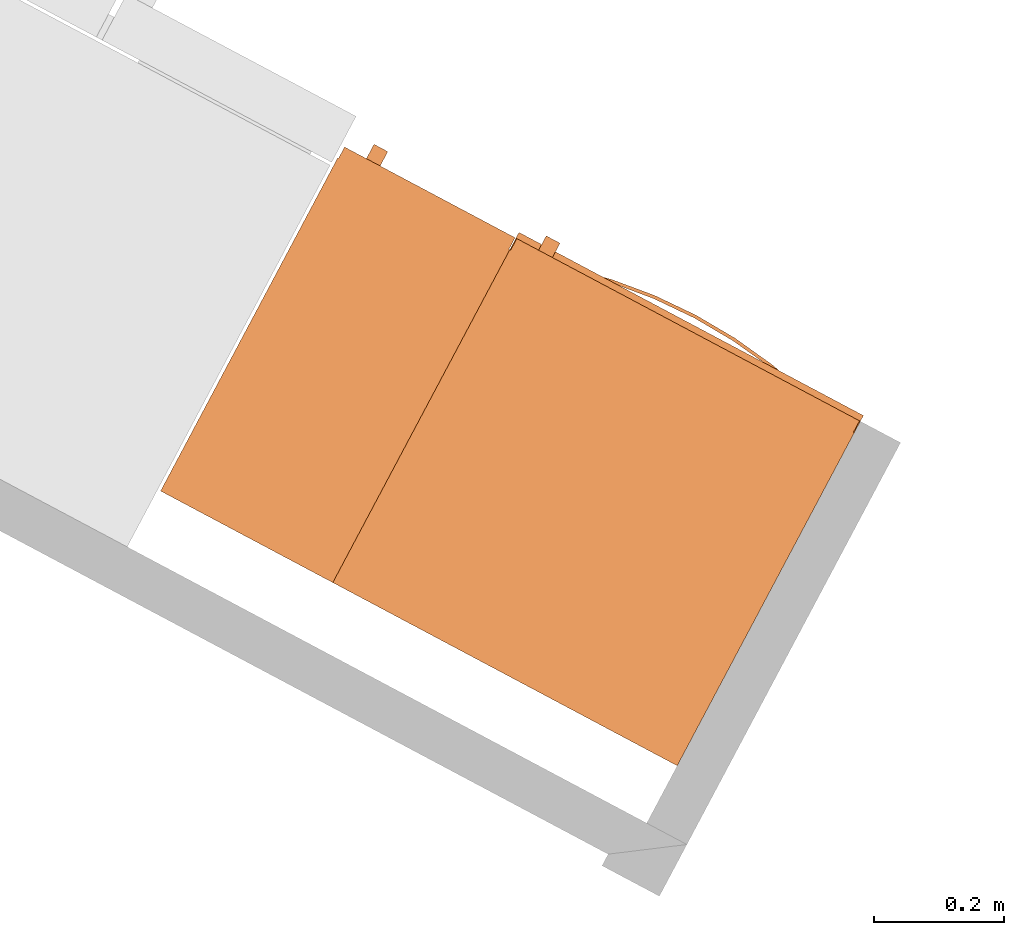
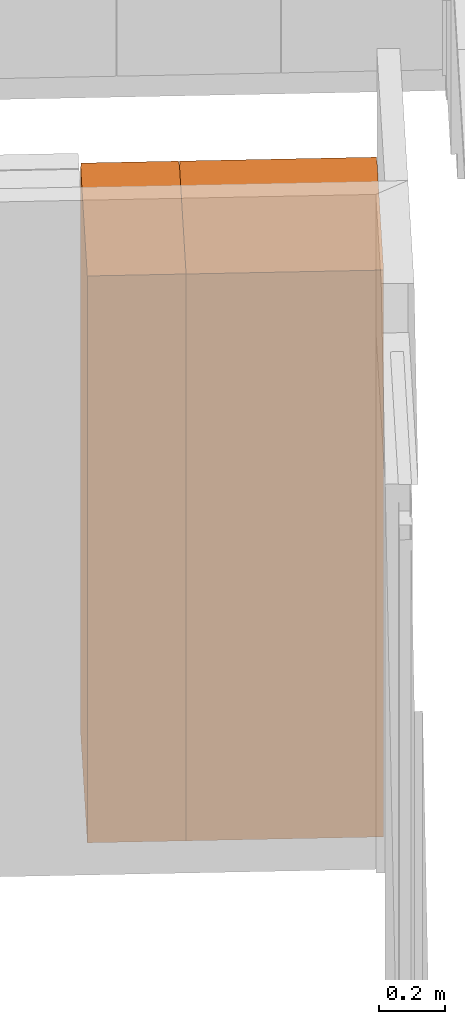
# One storey, part 20 of 27: 2 proxies.
"""IFC2X3 building model written with IfcOpenShell, lengths in metres."""

from ifc_helpers import new_model, entity, si_unit, converted_unit, derived_unit, money_unit, direction, frame, origin_with_axes, place, context, subcontext, project, spatial, faceted_brep, type_object, element, save


model = new_model("IFC2X3")

# Units and contexts
model_context = context("Model", 3, precision=1e-05, world=origin_with_axes(), true_north=direction((0.0, 1.0)))
body_context = subcontext(model_context, "Body", "Model", "MODEL_VIEW")
ifc_project = project(units=[si_unit("LENGTHUNIT", "METRE"), si_unit("AREAUNIT", "SQUARE_METRE"), si_unit("VOLUMEUNIT", "CUBIC_METRE"), converted_unit("PLANEANGLEUNIT", "DEGREE", entity("IfcPlaneAngleMeasure", 0.0174532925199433), si_unit("PLANEANGLEUNIT", "RADIAN"), dimensions=[0, 0, 0, 0, 0, 0, 0]), money_unit("CHF"), converted_unit("TIMEUNIT", "Year", entity("IfcTimeMeasure", 31557600.0), si_unit("TIMEUNIT", "SECOND"), dimensions=[0, 0, 1, 0, 0, 0, 0]), si_unit("MASSUNIT", "GRAM", prefix="KILO"), si_unit("THERMODYNAMICTEMPERATUREUNIT", "DEGREE_CELSIUS"), si_unit("LUMINOUSINTENSITYUNIT", "LUMEN"), si_unit("ENERGYUNIT", "JOULE", prefix="MEGA"), derived_unit("THERMALCONDUCTANCEUNIT", [(si_unit("POWERUNIT", "WATT"), 1), (si_unit("LENGTHUNIT", "METRE"), -1), (si_unit("THERMODYNAMICTEMPERATUREUNIT", "KELVIN"), -1)]), derived_unit("SPECIFICHEATCAPACITYUNIT", [(si_unit("ENERGYUNIT", "JOULE"), 1), (si_unit("MASSUNIT", "GRAM", prefix="KILO"), -1), (si_unit("THERMODYNAMICTEMPERATUREUNIT", "KELVIN"), -1)]), derived_unit("MASSDENSITYUNIT", [(si_unit("MASSUNIT", "GRAM", prefix="KILO"), 1), (si_unit("VOLUMEUNIT", "CUBIC_METRE"), -1)])], contexts=[model_context])

# Site, building, storey
site_placement = place(None, frame((0.0, 0.0, 0.0), z_axis=(0.0, 0.0, 1.0), x_axis=(-0.4694715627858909, -0.8829475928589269, 0.0)))
site = spatial("IfcSite", under=ifc_project, at=site_placement, Name="Site", CompositionType="ELEMENT")
building_placement = place(site_placement, origin_with_axes())
building = spatial("IfcBuilding", under=site, at=building_placement, Name="Bâtiment", CompositionType="ELEMENT")
storey_placement = place(building_placement, origin_with_axes())
storey = spatial("IfcBuildingStorey", under=building, at=storey_placement, Name="RDC", CompositionType="ELEMENT", Elevation=0.0)

# Proxies
building_element_proxy_type_1 = type_object("IfcBuildingElementProxyType", Name="Elément haut avec four 24", PredefinedType="NOTDEFINED")
proxy_1_placement = place(storey_placement, frame((137.8995710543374, -829.9595991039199, 0.0), z_axis=(0.0, 0.0, 1.0), x_axis=(0.0, -1.0, 0.0)))
element("IfcBuildingElementProxy", 1, at=proxy_1_placement, inside=storey, type_object=building_element_proxy_type_1, Name="Obj.-482", context=body_context, shape_type="Brep", body=[
    faceted_brep([(0.02, 0.02, 1.39), (0.58, 0.02, 1.39), (0.58, 0.02, 1.41), (0.02, 0.02, 1.41), (0.02, 0.58, 1.39), (0.58, 0.58, 1.39), (0.58, 0.58, 1.41), (0.02, 0.58, 1.41)], [[[0, 1, 2, 3]], [[0, 4, 5, 1]], [[1, 5, 6, 2]], [[3, 2, 6, 7]], [[4, 0, 3, 7]], [[5, 4, 7, 6]]]),
    faceted_brep([(0.02, 0.02, 0.89), (0.58, 0.02, 0.89), (0.58, 0.02, 0.91), (0.02, 0.02, 0.91), (0.02, 0.58, 0.89), (0.58, 0.58, 0.89), (0.58, 0.58, 0.91), (0.02, 0.58, 0.91)], [[[0, 1, 2, 3]], [[0, 4, 5, 1]], [[1, 5, 6, 2]], [[3, 2, 6, 7]], [[4, 0, 3, 7]], [[5, 4, 7, 6]]]),
    faceted_brep([(0.0, 0.02, 0.0), (0.6, 0.02, 0.0), (0.6, 0.02, 0.09), (0.0, 0.02, 0.09), (0.0, 0.6, 0.0), (0.6, 0.6, 0.0), (0.6, 0.6, 0.09), (0.0, 0.6, 0.09)], [[[0, 1, 2, 3]], [[0, 4, 5, 1]], [[1, 5, 6, 2]], [[3, 2, 6, 7]], [[4, 0, 3, 7]], [[5, 4, 7, 6]]]),
    faceted_brep([(0.0, 0.02, 2.08), (0.02, 0.02, 2.08), (0.02, 0.02, 2.1), (0.0, 0.02, 2.1), (0.0, 0.6, 2.08), (0.02, 0.6, 2.08), (0.58, 0.6, 2.08), (0.6, 0.6, 2.08), (0.6, 0.02, 2.08), (0.58, 0.02, 2.08), (0.58, 0.02, 2.1), (0.6, 0.02, 2.1), (0.6, 0.6, 2.1), (0.58, 0.6, 2.1), (0.02, 0.6, 2.1), (0.0, 0.6, 2.1)], [[[0, 1, 2, 3]], [[0, 4, 5, 6, 7, 8, 9, 1]], [[1, 9, 10, 2]], [[3, 2, 10, 11, 12, 13, 14, 15]], [[4, 0, 3, 15]], [[5, 4, 15, 14]], [[6, 5, 14, 13]], [[7, 6, 13, 12]], [[8, 7, 12, 11]], [[9, 8, 11, 10]]]),
    faceted_brep([(0.0, 0.02, 0.09), (0.02, 0.02, 0.09), (0.02, 0.02, 0.11), (0.0, 0.02, 0.11), (0.0, 0.6, 0.09), (0.02, 0.6, 0.09), (0.58, 0.6, 0.09), (0.6, 0.6, 0.09), (0.6, 0.02, 0.09), (0.58, 0.02, 0.09), (0.58, 0.02, 0.11), (0.6, 0.02, 0.11), (0.6, 0.6, 0.11), (0.58, 0.6, 0.11), (0.02, 0.6, 0.11), (0.0, 0.6, 0.11)], [[[0, 1, 2, 3]], [[0, 4, 5, 6, 7, 8, 9, 1]], [[1, 9, 10, 2]], [[3, 2, 10, 11, 12, 13, 14, 15]], [[4, 0, 3, 15]], [[5, 4, 15, 14]], [[6, 5, 14, 13]], [[7, 6, 13, 12]], [[8, 7, 12, 11]], [[9, 8, 11, 10]]]),
    faceted_brep([(0.0, 0.02, 0.11), (0.02, 0.02, 0.11), (0.02, 0.02, 2.08), (0.0, 0.02, 2.08), (0.0, 0.6, 0.11), (0.6, 0.6, 0.11), (0.6, 0.02, 0.11), (0.58, 0.02, 0.11), (0.58, 0.58, 0.11), (0.02, 0.58, 0.11), (0.02, 0.58, 2.08), (0.58, 0.58, 2.08), (0.58, 0.02, 2.08), (0.6, 0.02, 2.08), (0.6, 0.6, 2.08), (0.0, 0.6, 2.08)], [[[0, 1, 2, 3]], [[0, 4, 5, 6, 7, 8, 9, 1]], [[1, 9, 10, 2]], [[3, 2, 10, 11, 12, 13, 14, 15]], [[4, 0, 3, 15]], [[5, 4, 15, 14]], [[6, 5, 14, 13]], [[7, 6, 13, 12]], [[8, 7, 12, 11]], [[9, 8, 11, 10]]]),
    faceted_brep([(0.58, 0.02, 0.3466666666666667), (0.58, 0.58, 0.3466666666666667), (0.58, 0.58, 0.3666666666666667), (0.58, 0.02, 0.3666666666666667), (0.02, 0.02, 0.3466666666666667), (0.02, 0.58, 0.3466666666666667), (0.02, 0.58, 0.3666666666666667), (0.02, 0.02, 0.3666666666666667)], [[[0, 1, 2, 3]], [[0, 4, 5, 1]], [[1, 5, 6, 2]], [[3, 2, 6, 7]], [[4, 0, 3, 7]], [[5, 4, 7, 6]]]),
    faceted_brep([(0.58, 0.02, 0.6233333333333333), (0.58, 0.58, 0.6233333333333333), (0.58, 0.58, 0.6433333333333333), (0.58, 0.02, 0.6433333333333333), (0.02, 0.02, 0.6233333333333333), (0.02, 0.58, 0.6233333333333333), (0.02, 0.58, 0.6433333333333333), (0.02, 0.02, 0.6433333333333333)], [[[0, 1, 2, 3]], [[0, 4, 5, 1]], [[1, 5, 6, 2]], [[3, 2, 6, 7]], [[4, 0, 3, 7]], [[5, 4, 7, 6]]]),
    faceted_brep([(0.001500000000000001, 0.02, 0.0915), (0.5985, 0.02, 0.0915), (0.5985, 0.0, 0.0915), (0.001500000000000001, 0.0, 0.0915), (0.001500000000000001, 0.02000000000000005, 0.8985000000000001), (0.5985, 0.02000000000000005, 0.8985000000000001), (0.5985, 0.0, 0.8985000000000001), (0.001500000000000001, 0.0, 0.8985000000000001)], [[[0, 1, 2, 3]], [[0, 4, 5, 1]], [[1, 5, 6, 2]], [[3, 2, 6, 7]], [[4, 0, 3, 7]], [[5, 4, 7, 6]]]),
    faceted_brep([(0.5600911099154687, 0.0, 0.8383941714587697), (0.5588923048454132, 0.0, 0.8355), (0.5569852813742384, 0.0, 0.8330147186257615), (0.5544999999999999, 0.0, 0.8311076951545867), (0.5516058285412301, 0.0, 0.8299088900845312), (0.5484999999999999, 0.0, 0.8295), (0.5453941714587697, 0.0, 0.8299088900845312), (0.5424999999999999, 0.0, 0.8311076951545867), (0.5400147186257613, 0.0, 0.8330147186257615), (0.5381076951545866, 0.0, 0.8355), (0.536908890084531, 0.0, 0.8383941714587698), (0.5364999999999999, 0.0, 0.8415), (0.536908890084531, 0.0, 0.8446058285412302), (0.5381076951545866, 0.0, 0.8475), (0.5400147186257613, 0.0, 0.8499852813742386), (0.5424999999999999, 0.0, 0.8518923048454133), (0.5453941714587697, 0.0, 0.8530911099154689), (0.5484999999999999, 0.0, 0.8535), (0.5516058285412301, 0.0, 0.8530911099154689), (0.5544999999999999, 0.0, 0.8518923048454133), (0.5569852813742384, 0.0, 0.8499852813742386), (0.5588923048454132, 0.0, 0.8475), (0.5600911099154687, 0.0, 0.8446058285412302), (0.5604999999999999, 0.0, 0.8415), (0.5600911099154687, -0.025, 0.8383941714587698), (0.5588923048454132, -0.025, 0.8355), (0.5569852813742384, -0.025, 0.8330147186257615), (0.5544999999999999, -0.025, 0.8311076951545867), (0.5516058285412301, -0.025, 0.8299088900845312), (0.5484999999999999, -0.025, 0.8295), (0.5453941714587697, -0.025, 0.8299088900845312), (0.5424999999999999, -0.025, 0.8311076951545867), (0.5400147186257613, -0.025, 0.8330147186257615), (0.5381076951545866, -0.025, 0.8355), (0.536908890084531, -0.025, 0.8383941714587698), (0.5364999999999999, -0.025, 0.8415), (0.536908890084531, -0.025, 0.8446058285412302), (0.5381076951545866, -0.025, 0.8475), (0.5400147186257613, -0.025, 0.8499852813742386), (0.5424999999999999, -0.025, 0.8518923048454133), (0.5453941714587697, -0.025, 0.8530911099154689), (0.5484999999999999, -0.025, 0.8535), (0.5516058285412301, -0.025, 0.8530911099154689), (0.5544999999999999, -0.025, 0.8518923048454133), (0.5569852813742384, -0.025, 0.8499852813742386), (0.5588923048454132, -0.025, 0.8475), (0.5600911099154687, -0.025, 0.8446058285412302), (0.5604999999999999, -0.025, 0.8415)], [[[0, 1, 2, 3, 4, 5, 6, 7, 8, 9, 10, 11, 12, 13, 14, 15, 16, 17, 18, 19, 20, 21, 22, 23]], [[1, 0, 24, 25]], [[2, 1, 25, 26]], [[3, 2, 26, 27]], [[4, 3, 27, 28]], [[5, 4, 28, 29]], [[6, 5, 29, 30]], [[7, 6, 30, 31]], [[8, 7, 31, 32]], [[9, 8, 32, 33]], [[10, 9, 33, 34]], [[11, 10, 34, 35]], [[12, 11, 35, 36]], [[13, 12, 36, 37]], [[14, 13, 37, 38]], [[15, 14, 38, 39]], [[16, 15, 39, 40]], [[17, 16, 40, 41]], [[18, 17, 41, 42]], [[19, 18, 42, 43]], [[20, 19, 43, 44]], [[21, 20, 44, 45]], [[22, 21, 45, 46]], [[23, 22, 46, 47]], [[0, 23, 47, 24]], [[24, 47, 46, 45, 44, 43, 42, 41, 40, 39, 38, 37, 36, 35, 34, 33, 32, 31, 30, 29, 28, 27, 26, 25]]]),
    faceted_brep([(0.001500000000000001, 0.02, 1.4015), (0.5985, 0.02, 1.4015), (0.5985, 0.0, 1.4015), (0.001500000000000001, 0.0, 1.4015), (0.001500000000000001, 0.02000000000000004, 2.0985), (0.5985, 0.02000000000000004, 2.0985), (0.5985, 0.0, 2.0985), (0.001500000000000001, 0.0, 2.0985)], [[[0, 1, 2, 3]], [[0, 4, 5, 1]], [[1, 5, 6, 2]], [[3, 2, 6, 7]], [[4, 0, 3, 7]], [[5, 4, 7, 6]]]),
    faceted_brep([(0.5600911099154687, 0.0, 1.44839417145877), (0.5588923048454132, 0.0, 1.4455), (0.5569852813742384, 0.0, 1.443014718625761), (0.5544999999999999, 0.0, 1.441107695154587), (0.5516058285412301, 0.0, 1.439908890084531), (0.5484999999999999, 0.0, 1.4395), (0.5453941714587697, 0.0, 1.439908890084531), (0.5424999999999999, 0.0, 1.441107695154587), (0.5400147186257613, 0.0, 1.443014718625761), (0.5381076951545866, 0.0, 1.4455), (0.536908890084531, 0.0, 1.44839417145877), (0.5364999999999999, 0.0, 1.4515), (0.536908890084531, 0.0, 1.45460582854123), (0.5381076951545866, 0.0, 1.4575), (0.5400147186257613, 0.0, 1.459985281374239), (0.5424999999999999, 0.0, 1.461892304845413), (0.5453941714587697, 0.0, 1.463091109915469), (0.5484999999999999, 0.0, 1.4635), (0.5516058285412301, 0.0, 1.463091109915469), (0.5544999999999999, 0.0, 1.461892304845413), (0.5569852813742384, 0.0, 1.459985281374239), (0.5588923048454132, 0.0, 1.4575), (0.5600911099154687, 0.0, 1.45460582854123), (0.5604999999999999, 0.0, 1.4515), (0.5600911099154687, -0.025, 1.44839417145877), (0.5588923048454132, -0.025, 1.4455), (0.5569852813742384, -0.025, 1.443014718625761), (0.5544999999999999, -0.025, 1.441107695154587), (0.5516058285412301, -0.025, 1.439908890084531), (0.5484999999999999, -0.025, 1.4395), (0.5453941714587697, -0.025, 1.439908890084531), (0.5424999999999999, -0.025, 1.441107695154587), (0.5400147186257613, -0.025, 1.443014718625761), (0.5381076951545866, -0.025, 1.4455), (0.536908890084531, -0.025, 1.44839417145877), (0.5364999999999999, -0.025, 1.4515), (0.536908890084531, -0.025, 1.45460582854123), (0.5381076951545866, -0.025, 1.4575), (0.5400147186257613, -0.025, 1.459985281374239), (0.5424999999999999, -0.025, 1.461892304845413), (0.5453941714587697, -0.025, 1.463091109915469), (0.5484999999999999, -0.025, 1.4635), (0.5516058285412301, -0.025, 1.463091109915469), (0.5544999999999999, -0.025, 1.461892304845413), (0.5569852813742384, -0.025, 1.459985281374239), (0.5588923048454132, -0.025, 1.4575), (0.5600911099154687, -0.025, 1.45460582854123), (0.5604999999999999, -0.025, 1.4515)], [[[0, 1, 2, 3, 4, 5, 6, 7, 8, 9, 10, 11, 12, 13, 14, 15, 16, 17, 18, 19, 20, 21, 22, 23]], [[1, 0, 24, 25]], [[2, 1, 25, 26]], [[3, 2, 26, 27]], [[4, 3, 27, 28]], [[5, 4, 28, 29]], [[6, 5, 29, 30]], [[7, 6, 30, 31]], [[8, 7, 31, 32]], [[9, 8, 32, 33]], [[10, 9, 33, 34]], [[11, 10, 34, 35]], [[12, 11, 35, 36]], [[13, 12, 36, 37]], [[14, 13, 37, 38]], [[15, 14, 38, 39]], [[16, 15, 39, 40]], [[17, 16, 40, 41]], [[18, 17, 41, 42]], [[19, 18, 42, 43]], [[20, 19, 43, 44]], [[21, 20, 44, 45]], [[22, 21, 45, 46]], [[23, 22, 46, 47]], [[0, 23, 47, 24]], [[24, 47, 46, 45, 44, 43, 42, 41, 40, 39, 38, 37, 36, 35, 34, 33, 32, 31, 30, 29, 28, 27, 26, 25]]]),
    faceted_brep([(0.0, 0.02, 0.905), (0.6, 0.02, 0.905), (0.6, 0.0, 0.905), (0.0, 0.0, 0.905), (0.0, 0.02000000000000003, 1.395), (0.6, 0.02000000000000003, 1.395), (0.11, 0.02000000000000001, 1.003), (0.49, 0.02000000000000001, 1.003), (0.49, 0.02000000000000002, 1.199), (0.11, 0.02000000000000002, 1.199), (0.6, 0.0, 1.395), (0.0, 0.0, 1.395), (0.11, 0.0, 1.003), (0.11, 0.0, 1.199), (0.49, 0.0, 1.199), (0.49, 0.0, 1.003)], [[[0, 1, 2, 3]], [[0, 4, 5, 1], [6, 7, 8, 9]], [[1, 5, 10, 2]], [[3, 2, 10, 11], [12, 13, 14, 15]], [[4, 0, 3, 11]], [[5, 4, 11, 10]], [[7, 6, 12, 15]], [[8, 7, 15, 14]], [[9, 8, 14, 13]], [[6, 9, 13, 12]]]),
    faceted_brep([(0.11, 0.015, 1.003), (0.49, 0.015, 1.003), (0.49, 0.005000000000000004, 1.003), (0.11, 0.005000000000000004, 1.003), (0.11, 0.01500000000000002, 1.199), (0.49, 0.01500000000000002, 1.199), (0.49, 0.005000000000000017, 1.199), (0.11, 0.005000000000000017, 1.199)], [[[0, 1, 2, 3]], [[0, 4, 5, 1]], [[1, 5, 6, 2]], [[3, 2, 6, 7]], [[4, 0, 3, 7]], [[5, 4, 7, 6]]]),
    faceted_brep([(0.0, -0.01, 0.905), (0.09999999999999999, -0.01, 0.905), (0.09999999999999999, -0.01, 1.287), (0.0, -0.01, 1.287), (0.0, 0.0, 0.905), (0.09999999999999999, 0.0, 0.905), (0.09999999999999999, 0.0, 1.287), (0.0, 0.0, 1.287)], [[[0, 1, 2, 3]], [[0, 4, 5, 1]], [[1, 5, 6, 2]], [[3, 2, 6, 7]], [[4, 0, 3, 7]], [[5, 4, 7, 6]]]),
    faceted_brep([(0.5, -0.01, 0.905), (0.6, -0.01, 0.905), (0.6, -0.01, 1.287), (0.5, -0.01, 1.287), (0.5, 0.0, 0.905), (0.6, 0.0, 0.905), (0.6, 0.0, 1.287), (0.5, 0.0, 1.287)], [[[0, 1, 2, 3]], [[0, 4, 5, 1]], [[1, 5, 6, 2]], [[3, 2, 6, 7]], [[4, 0, 3, 7]], [[5, 4, 7, 6]]]),
    faceted_brep([(0.0, 0.0, 1.297), (0.09999999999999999, 0.0, 1.297), (0.09999999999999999, -0.01, 1.297), (0.0, -0.01, 1.297), (0.0, 0.0, 1.395), (0.6, 0.0, 1.395), (0.6, 0.0, 1.297), (0.5, 0.0, 1.297), (0.5, 0.0, 1.3754), (0.09999999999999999, 0.0, 1.3754), (0.09999999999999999, -0.009999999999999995, 1.3754), (0.5, -0.009999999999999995, 1.3754), (0.5, -0.01, 1.297), (0.6, -0.01, 1.297), (0.6, -0.009999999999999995, 1.395), (0.0, -0.009999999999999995, 1.395)], [[[0, 1, 2, 3]], [[0, 4, 5, 6, 7, 8, 9, 1]], [[1, 9, 10, 2]], [[3, 2, 10, 11, 12, 13, 14, 15]], [[4, 0, 3, 15]], [[5, 4, 15, 14]], [[6, 5, 14, 13]], [[7, 6, 13, 12]], [[8, 7, 12, 11]], [[9, 8, 11, 10]]]),
    faceted_brep([(0.1013166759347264, 0.0, 1.231666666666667), (0.1610814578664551, -0.01324953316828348, 1.231666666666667), (0.1610814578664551, -0.01324953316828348, 1.264333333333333), (0.1013166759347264, 0.0, 1.264333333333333), (0.498683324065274, 0.0, 1.231666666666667), (0.4389185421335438, -0.01324953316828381, 1.231666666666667), (0.369724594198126, -0.02235908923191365, 1.231666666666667), (0.3, -0.0254033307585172, 1.231666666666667), (0.2302754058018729, -0.02235908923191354, 1.231666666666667), (0.1243958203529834, 0.0, 1.231666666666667), (0.1619496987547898, -0.0083254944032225, 1.231666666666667), (0.2307111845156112, -0.01737811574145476, 1.231666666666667), (0.3, -0.02040333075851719, 1.231666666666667), (0.3692888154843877, -0.01737811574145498, 1.231666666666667), (0.4380503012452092, -0.008325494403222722, 1.231666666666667), (0.4756041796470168, 0.0, 1.231666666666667), (0.2302754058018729, -0.02235908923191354, 1.264333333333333), (0.3, -0.0254033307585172, 1.264333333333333), (0.369724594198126, -0.02235908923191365, 1.264333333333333), (0.4389185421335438, -0.01324953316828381, 1.264333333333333), (0.498683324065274, 0.0, 1.264333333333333), (0.4756041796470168, 0.0, 1.264333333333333), (0.4380503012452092, -0.008325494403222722, 1.264333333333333), (0.3692888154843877, -0.01737811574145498, 1.264333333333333), (0.3, -0.02040333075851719, 1.264333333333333), (0.2307111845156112, -0.01737811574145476, 1.264333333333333), (0.1619496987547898, -0.0083254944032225, 1.264333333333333), (0.1243958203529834, 0.0, 1.264333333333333)], [[[0, 1, 2, 3]], [[4, 5, 6, 7, 8, 1, 0, 9, 10, 11, 12, 13, 14, 15]], [[1, 8, 16, 2]], [[3, 2, 16, 17, 18, 19, 20, 21, 22, 23, 24, 25, 26, 27]], [[0, 3, 27, 9]], [[5, 4, 20, 19]], [[6, 5, 19, 18]], [[7, 6, 18, 17]], [[8, 7, 17, 16]], [[10, 9, 27, 26]], [[11, 10, 26, 25]], [[12, 11, 25, 24]], [[13, 12, 24, 23]], [[14, 13, 23, 22]], [[15, 14, 22, 21]], [[4, 15, 21, 20]]]),
])
building_element_proxy_type_2 = type_object("IfcBuildingElementProxyType", Name="Elément haut 24", PredefinedType="NOTDEFINED")
proxy_2_placement = place(storey_placement, frame((137.8995710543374, -830.5595991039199, 0.0), z_axis=(0.0, 0.0, 1.0), x_axis=(0.0, -1.0, 0.0)))
element("IfcBuildingElementProxy", 2, at=proxy_2_placement, inside=storey, type_object=building_element_proxy_type_2, Name="Obj.-482", context=body_context, shape_type="Brep", body=[
    faceted_brep([(0.02, 0.02, 1.49), (0.28, 0.02, 1.49), (0.28, 0.02, 1.51), (0.02, 0.02, 1.51), (0.02, 0.58, 1.49), (0.28, 0.58, 1.49), (0.28, 0.58, 1.51), (0.02, 0.58, 1.51)], [[[0, 1, 2, 3]], [[0, 4, 5, 1]], [[1, 5, 6, 2]], [[3, 2, 6, 7]], [[4, 0, 3, 7]], [[5, 4, 7, 6]]]),
    faceted_brep([(0.0, 0.02, 0.0), (0.3, 0.02, 0.0), (0.3, 0.02, 0.09), (0.0, 0.02, 0.09), (0.0, 0.6, 0.0), (0.3, 0.6, 0.0), (0.3, 0.6, 0.09), (0.0, 0.6, 0.09)], [[[0, 1, 2, 3]], [[0, 4, 5, 1]], [[1, 5, 6, 2]], [[3, 2, 6, 7]], [[4, 0, 3, 7]], [[5, 4, 7, 6]]]),
    faceted_brep([(0.0, 0.02, 2.08), (0.02, 0.02, 2.08), (0.02, 0.02, 2.1), (0.0, 0.02, 2.1), (0.0, 0.6, 2.08), (0.02, 0.6, 2.08), (0.28, 0.6, 2.08), (0.3, 0.6, 2.08), (0.3, 0.02, 2.08), (0.28, 0.02, 2.08), (0.28, 0.02, 2.1), (0.3, 0.02, 2.1), (0.3, 0.6, 2.1), (0.28, 0.6, 2.1), (0.02, 0.6, 2.1), (0.0, 0.6, 2.1)], [[[0, 1, 2, 3]], [[0, 4, 5, 6, 7, 8, 9, 1]], [[1, 9, 10, 2]], [[3, 2, 10, 11, 12, 13, 14, 15]], [[4, 0, 3, 15]], [[5, 4, 15, 14]], [[6, 5, 14, 13]], [[7, 6, 13, 12]], [[8, 7, 12, 11]], [[9, 8, 11, 10]]]),
    faceted_brep([(0.0, 0.02, 0.09), (0.02, 0.02, 0.09), (0.02, 0.02, 0.11), (0.0, 0.02, 0.11), (0.0, 0.6, 0.09), (0.02, 0.6, 0.09), (0.28, 0.6, 0.09), (0.3, 0.6, 0.09), (0.3, 0.02, 0.09), (0.28, 0.02, 0.09), (0.28, 0.02, 0.11), (0.3, 0.02, 0.11), (0.3, 0.6, 0.11), (0.28, 0.6, 0.11), (0.02, 0.6, 0.11), (0.0, 0.6, 0.11)], [[[0, 1, 2, 3]], [[0, 4, 5, 6, 7, 8, 9, 1]], [[1, 9, 10, 2]], [[3, 2, 10, 11, 12, 13, 14, 15]], [[4, 0, 3, 15]], [[5, 4, 15, 14]], [[6, 5, 14, 13]], [[7, 6, 13, 12]], [[8, 7, 12, 11]], [[9, 8, 11, 10]]]),
    faceted_brep([(0.0, 0.02, 0.11), (0.02, 0.02, 0.11), (0.02, 0.02, 2.08), (0.0, 0.02, 2.08), (0.0, 0.6, 0.11), (0.3, 0.6, 0.11), (0.3, 0.02, 0.11), (0.28, 0.02, 0.11), (0.28, 0.58, 0.11), (0.02, 0.58, 0.11), (0.02, 0.58, 2.08), (0.28, 0.58, 2.08), (0.28, 0.02, 2.08), (0.3, 0.02, 2.08), (0.3, 0.6, 2.08), (0.0, 0.6, 2.08)], [[[0, 1, 2, 3]], [[0, 4, 5, 6, 7, 8, 9, 1]], [[1, 9, 10, 2]], [[3, 2, 10, 11, 12, 13, 14, 15]], [[4, 0, 3, 15]], [[5, 4, 15, 14]], [[6, 5, 14, 13]], [[7, 6, 13, 12]], [[8, 7, 12, 11]], [[9, 8, 11, 10]]]),
    faceted_brep([(0.28, 0.02, 0.5466666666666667), (0.28, 0.58, 0.5466666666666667), (0.28, 0.58, 0.5666666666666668), (0.28, 0.02, 0.5666666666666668), (0.02, 0.02, 0.5466666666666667), (0.02, 0.58, 0.5466666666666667), (0.02, 0.58, 0.5666666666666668), (0.02, 0.02, 0.5666666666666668)], [[[0, 1, 2, 3]], [[0, 4, 5, 1]], [[1, 5, 6, 2]], [[3, 2, 6, 7]], [[4, 0, 3, 7]], [[5, 4, 7, 6]]]),
    faceted_brep([(0.28, 0.02, 1.023333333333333), (0.28, 0.58, 1.023333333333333), (0.28, 0.58, 1.043333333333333), (0.28, 0.02, 1.043333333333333), (0.02, 0.02, 1.023333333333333), (0.02, 0.58, 1.023333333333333), (0.02, 0.58, 1.043333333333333), (0.02, 0.02, 1.043333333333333)], [[[0, 1, 2, 3]], [[0, 4, 5, 1]], [[1, 5, 6, 2]], [[3, 2, 6, 7]], [[4, 0, 3, 7]], [[5, 4, 7, 6]]]),
    faceted_brep([(0.001500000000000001, 0.02, 0.0915), (0.2985, 0.02, 0.0915), (0.2985, 0.0, 0.0915), (0.001500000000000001, 0.0, 0.0915), (0.001500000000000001, 0.02000000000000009, 1.4985), (0.2985, 0.02000000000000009, 1.4985), (0.2985, 0.0, 1.4985), (0.001500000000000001, 0.0, 1.4985)], [[[0, 1, 2, 3]], [[0, 4, 5, 1]], [[1, 5, 6, 2]], [[3, 2, 6, 7]], [[4, 0, 3, 7]], [[5, 4, 7, 6]]]),
    faceted_brep([(0.2600911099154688, 0.0, 0.8383941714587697), (0.2588923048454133, 0.0, 0.8355), (0.2569852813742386, 0.0, 0.8330147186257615), (0.2545, 0.0, 0.8311076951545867), (0.2516058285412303, 0.0, 0.8299088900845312), (0.2485, 0.0, 0.8295), (0.2453941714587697, 0.0, 0.8299088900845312), (0.2425, 0.0, 0.8311076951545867), (0.2400147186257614, 0.0, 0.8330147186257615), (0.2381076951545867, 0.0, 0.8355), (0.2369088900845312, 0.0, 0.8383941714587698), (0.2365, 0.0, 0.8415), (0.2369088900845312, 0.0, 0.8446058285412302), (0.2381076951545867, 0.0, 0.8475), (0.2400147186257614, 0.0, 0.8499852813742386), (0.2425, 0.0, 0.8518923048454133), (0.2453941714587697, 0.0, 0.8530911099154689), (0.2485, 0.0, 0.8535), (0.2516058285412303, 0.0, 0.8530911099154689), (0.2545, 0.0, 0.8518923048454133), (0.2569852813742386, 0.0, 0.8499852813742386), (0.2588923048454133, 0.0, 0.8475), (0.2600911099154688, 0.0, 0.8446058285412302), (0.2605, 0.0, 0.8415), (0.2600911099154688, -0.025, 0.8383941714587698), (0.2588923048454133, -0.025, 0.8355), (0.2569852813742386, -0.025, 0.8330147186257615), (0.2545, -0.025, 0.8311076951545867), (0.2516058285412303, -0.025, 0.8299088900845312), (0.2485, -0.025, 0.8295), (0.2453941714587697, -0.025, 0.8299088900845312), (0.2425, -0.025, 0.8311076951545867), (0.2400147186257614, -0.025, 0.8330147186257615), (0.2381076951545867, -0.025, 0.8355), (0.2369088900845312, -0.025, 0.8383941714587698), (0.2365, -0.025, 0.8415), (0.2369088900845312, -0.025, 0.8446058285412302), (0.2381076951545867, -0.025, 0.8475), (0.2400147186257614, -0.025, 0.8499852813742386), (0.2425, -0.025, 0.8518923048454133), (0.2453941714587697, -0.025, 0.8530911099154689), (0.2485, -0.025, 0.8535), (0.2516058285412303, -0.025, 0.8530911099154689), (0.2545, -0.025, 0.8518923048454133), (0.2569852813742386, -0.025, 0.8499852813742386), (0.2588923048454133, -0.025, 0.8475), (0.2600911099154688, -0.025, 0.8446058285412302), (0.2605, -0.025, 0.8415)], [[[0, 1, 2, 3, 4, 5, 6, 7, 8, 9, 10, 11, 12, 13, 14, 15, 16, 17, 18, 19, 20, 21, 22, 23]], [[1, 0, 24, 25]], [[2, 1, 25, 26]], [[3, 2, 26, 27]], [[4, 3, 27, 28]], [[5, 4, 28, 29]], [[6, 5, 29, 30]], [[7, 6, 30, 31]], [[8, 7, 31, 32]], [[9, 8, 32, 33]], [[10, 9, 33, 34]], [[11, 10, 34, 35]], [[12, 11, 35, 36]], [[13, 12, 36, 37]], [[14, 13, 37, 38]], [[15, 14, 38, 39]], [[16, 15, 39, 40]], [[17, 16, 40, 41]], [[18, 17, 41, 42]], [[19, 18, 42, 43]], [[20, 19, 43, 44]], [[21, 20, 44, 45]], [[22, 21, 45, 46]], [[23, 22, 46, 47]], [[0, 23, 47, 24]], [[24, 47, 46, 45, 44, 43, 42, 41, 40, 39, 38, 37, 36, 35, 34, 33, 32, 31, 30, 29, 28, 27, 26, 25]]]),
    faceted_brep([(0.001500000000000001, 0.02, 1.5015), (0.2985, 0.02, 1.5015), (0.2985, 0.0, 1.5015), (0.001500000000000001, 0.0, 1.5015), (0.001500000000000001, 0.02000000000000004, 2.0985), (0.2985, 0.02000000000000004, 2.0985), (0.2985, 0.0, 2.0985), (0.001500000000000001, 0.0, 2.0985)], [[[0, 1, 2, 3]], [[0, 4, 5, 1]], [[1, 5, 6, 2]], [[3, 2, 6, 7]], [[4, 0, 3, 7]], [[5, 4, 7, 6]]]),
    faceted_brep([(0.2600911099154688, 0.0, 1.54839417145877), (0.2588923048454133, 0.0, 1.5455), (0.2569852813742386, 0.0, 1.543014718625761), (0.2545, 0.0, 1.541107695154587), (0.2516058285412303, 0.0, 1.539908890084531), (0.2485, 0.0, 1.5395), (0.2453941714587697, 0.0, 1.539908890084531), (0.2425, 0.0, 1.541107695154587), (0.2400147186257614, 0.0, 1.543014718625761), (0.2381076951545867, 0.0, 1.5455), (0.2369088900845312, 0.0, 1.54839417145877), (0.2365, 0.0, 1.5515), (0.2369088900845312, 0.0, 1.55460582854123), (0.2381076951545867, 0.0, 1.5575), (0.2400147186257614, 0.0, 1.559985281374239), (0.2425, 0.0, 1.561892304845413), (0.2453941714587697, 0.0, 1.563091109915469), (0.2485, 0.0, 1.5635), (0.2516058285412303, 0.0, 1.563091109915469), (0.2545, 0.0, 1.561892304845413), (0.2569852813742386, 0.0, 1.559985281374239), (0.2588923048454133, 0.0, 1.5575), (0.2600911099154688, 0.0, 1.55460582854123), (0.2605, 0.0, 1.5515), (0.2600911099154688, -0.025, 1.54839417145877), (0.2588923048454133, -0.025, 1.5455), (0.2569852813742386, -0.025, 1.543014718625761), (0.2545, -0.025, 1.541107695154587), (0.2516058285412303, -0.025, 1.539908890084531), (0.2485, -0.025, 1.5395), (0.2453941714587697, -0.025, 1.539908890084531), (0.2425, -0.025, 1.541107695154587), (0.2400147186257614, -0.025, 1.543014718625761), (0.2381076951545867, -0.025, 1.5455), (0.2369088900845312, -0.025, 1.54839417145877), (0.2365, -0.025, 1.5515), (0.2369088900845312, -0.025, 1.55460582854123), (0.2381076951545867, -0.025, 1.5575), (0.2400147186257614, -0.025, 1.559985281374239), (0.2425, -0.025, 1.561892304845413), (0.2453941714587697, -0.025, 1.563091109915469), (0.2485, -0.025, 1.5635), (0.2516058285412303, -0.025, 1.563091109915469), (0.2545, -0.025, 1.561892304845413), (0.2569852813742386, -0.025, 1.559985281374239), (0.2588923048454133, -0.025, 1.5575), (0.2600911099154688, -0.025, 1.55460582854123), (0.2605, -0.025, 1.5515)], [[[0, 1, 2, 3, 4, 5, 6, 7, 8, 9, 10, 11, 12, 13, 14, 15, 16, 17, 18, 19, 20, 21, 22, 23]], [[1, 0, 24, 25]], [[2, 1, 25, 26]], [[3, 2, 26, 27]], [[4, 3, 27, 28]], [[5, 4, 28, 29]], [[6, 5, 29, 30]], [[7, 6, 30, 31]], [[8, 7, 31, 32]], [[9, 8, 32, 33]], [[10, 9, 33, 34]], [[11, 10, 34, 35]], [[12, 11, 35, 36]], [[13, 12, 36, 37]], [[14, 13, 37, 38]], [[15, 14, 38, 39]], [[16, 15, 39, 40]], [[17, 16, 40, 41]], [[18, 17, 41, 42]], [[19, 18, 42, 43]], [[20, 19, 43, 44]], [[21, 20, 44, 45]], [[22, 21, 45, 46]], [[23, 22, 46, 47]], [[0, 23, 47, 24]], [[24, 47, 46, 45, 44, 43, 42, 41, 40, 39, 38, 37, 36, 35, 34, 33, 32, 31, 30, 29, 28, 27, 26, 25]]]),
])

save(model, "model.ifc")
